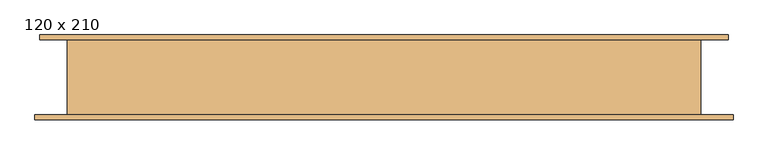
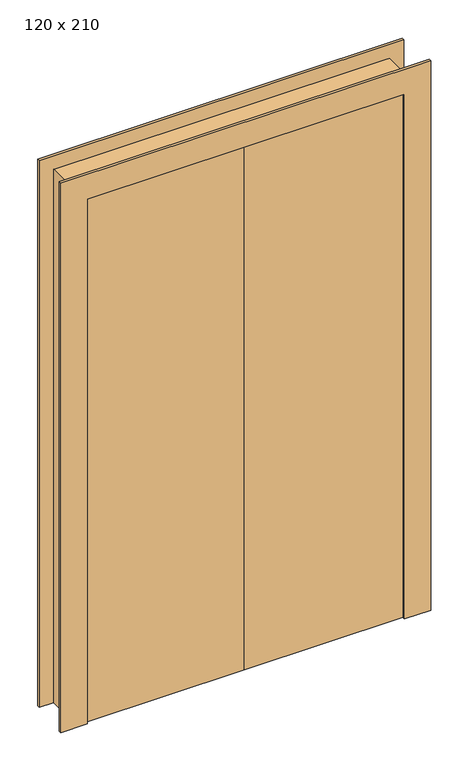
"""IFC4 building model written with IfcOpenShell, lengths in millimetres: door geometry, PORTA DE ABRIR - 2 FOLHAS : 120 x 210."""

from ifc_helpers import new_model, si_unit, frame, origin, origin_with_axes, place, context, project, spatial, polyline, outline, extrude, faceted_brep, source, transform, mapped, element, save


def door_120_x_210_efae11d8(model_context):
    return source(origin(), model_context, "Body", "SolidModel", [
        extrude(outline(polyline([(60.0, -75.0), (60.0, -35.0), (660.0, -35.0), (660.0, -75.0), (60.0, -75.0)])), origin_with_axes(), (0.0, 0.0, 1.0), 2100.0),
        extrude(outline(polyline([(60.0, -75.0), (-540.0, -75.0), (-540.0, -35.0), (60.0, -35.0), (60.0, -75.0)])), origin_with_axes(), (0.0, 0.0, 1.0), 2100.0),
        extrude(outline(polyline([(2090.0, 650.0), (0.0, 650.0), (0.0, 750.0), (2190.0, 750.0), (2190.0, -630.0), (0.0, -630.0), (0.0, -530.0), (2090.0, -530.0), (2090.0, 650.0)])), frame((0.0, 75.0, 0.0), z_axis=(0.0, 1.0, 0.0), x_axis=(0.0, 0.0, 1.0)), (0.0, 0.0, 1.0), 10.0),
        extrude(outline(polyline([(2100.0, -540.0), (2100.0, 660.0), (0.0, 660.0), (0.0, 760.0), (2200.0, 760.0), (2200.0, -640.0), (0.0, -640.0), (0.0, -540.0), (2100.0, -540.0)])), frame((0.0, -85.0, 0.0), z_axis=(0.0, 1.0, 0.0), x_axis=(0.0, 0.0, 1.0)), (0.0, 0.0, 1.0), 10.0),
        faceted_brep([(-575.0, 75.0, 0.0), (-530.0, 75.0, 0.0), (-530.0, -35.0, 0.0), (-540.0, -35.0, 0.0), (-540.0, -75.0, 0.0), (-575.0, -75.0, 0.0), (-575.0, 75.0, 2135.0), (695.0, 75.0, 2135.0), (695.0, 75.0, 0.0), (650.0, 75.0, 0.0), (650.0, 75.0, 2090.0), (-530.0, 75.0, 2090.0), (-530.0, -35.0, 2090.0), (650.0, -35.0, 2090.0), (650.0, -35.0, 0.0), (660.0, -35.0, 0.0), (660.0, -35.0, 2100.0), (-540.0, -35.0, 2100.0), (-540.0, -75.0, 2100.0), (660.0, -75.0, 2100.0), (660.0, -75.0, 0.0), (695.0, -75.0, 0.0), (695.0, -75.0, 2135.0), (-575.0, -75.0, 2135.0)], [[[0, 1, 2, 3, 4, 5]], [[1, 0, 6, 7, 8, 9, 10, 11]], [[2, 1, 11, 12]], [[3, 2, 12, 13, 14, 15, 16, 17]], [[4, 3, 17, 18]], [[5, 4, 18, 19, 20, 21, 22, 23]], [[0, 5, 23, 6]], [[7, 22, 21, 8]], [[8, 21, 20, 15, 14, 9]], [[13, 10, 9, 14]], [[19, 16, 15, 20]], [[12, 11, 10, 13]], [[18, 17, 16, 19]], [[6, 23, 22, 7]]]),
    ])


if __name__ == "__main__":
    model = new_model("IFC4")
    model_context = context("Model", 3, world=origin())
    ifc_project = project(units=[si_unit("LENGTHUNIT", "METRE", prefix="MILLI")], contexts=[model_context])
    site = spatial("IfcSite", under=ifc_project)
    building = spatial("IfcBuilding", under=site)
    placement = place(None, origin())
    door_120_x_210_shape = door_120_x_210_efae11d8(model_context)
    element("IfcDoor", 1, ObjectType="PORTA DE ABRIR - 2 FOLHAS : 120 x 210", at=placement, inside=building, context=model_context, shape_type="MappedRepresentation", body=[
        mapped(door_120_x_210_shape, transform((0.0, 0.0, 0.0), x_axis=(1.0, 0.0, 0.0), y_axis=(0.0, 1.0, 0.0), z_axis=(0.0, 0.0, 1.0))),
    ])
    save(model, "model.ifc")
